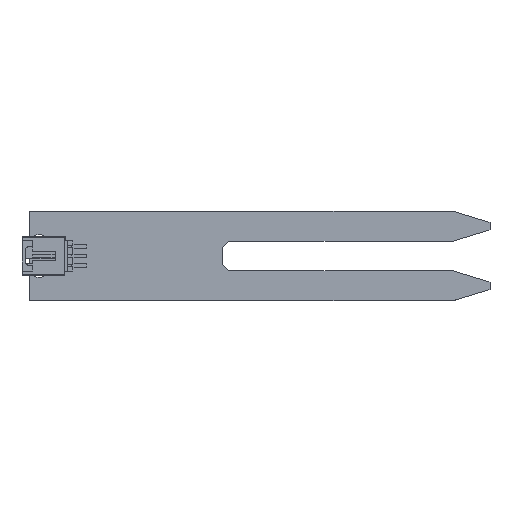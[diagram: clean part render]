
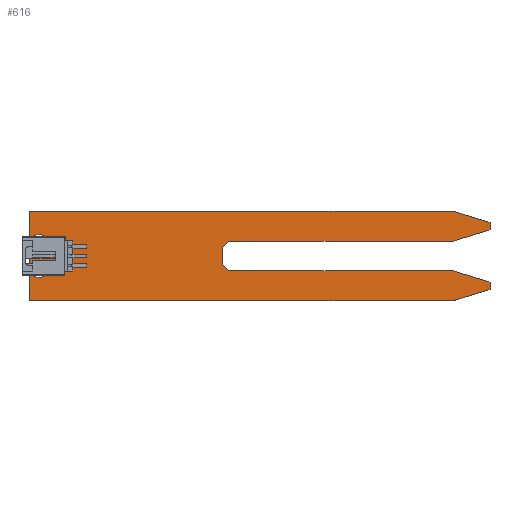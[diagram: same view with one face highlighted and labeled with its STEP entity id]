
A CAD part, top view. The second image highlights one B-rep face of the part: STEP entity #616.
In plain terms, the highlighted planar face has unit normal (0, 0, 1).
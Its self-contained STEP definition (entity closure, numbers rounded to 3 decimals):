
#95 = VERTEX_POINT('',#96);
#96 = CARTESIAN_POINT('',(0.,0.,0.));
#102 = EDGE_CURVE('',#95,#103,#105,.T.);
#103 = VERTEX_POINT('',#104);
#104 = CARTESIAN_POINT('',(0.,24.13,0.));
#105 = LINE('',#106,#107);
#106 = CARTESIAN_POINT('',(0.,0.,0.));
#107 = VECTOR('',#108,1.);
#108 = DIRECTION('',(0.,1.,0.));
#133 = EDGE_CURVE('',#103,#134,#136,.T.);
#134 = VERTEX_POINT('',#135);
#135 = CARTESIAN_POINT('',(113.5,24.13,0.));
#136 = LINE('',#137,#138);
#137 = CARTESIAN_POINT('',(0.,24.13,0.));
#138 = VECTOR('',#139,1.);
#139 = DIRECTION('',(1.,0.,0.));
#164 = EDGE_CURVE('',#134,#165,#167,.T.);
#165 = VERTEX_POINT('',#166);
#166 = CARTESIAN_POINT('',(123.66,21.082,0.));
#167 = LINE('',#168,#169);
#168 = CARTESIAN_POINT('',(113.5,24.13,0.));
#169 = VECTOR('',#170,1.);
#170 = DIRECTION('',(0.958,-0.287,0.));
#195 = EDGE_CURVE('',#165,#196,#198,.T.);
#196 = VERTEX_POINT('',#197);
#197 = CARTESIAN_POINT('',(123.66,19.05,0.));
#198 = LINE('',#199,#200);
#199 = CARTESIAN_POINT('',(123.66,21.082,0.));
#200 = VECTOR('',#201,1.);
#201 = DIRECTION('',(0.,-1.,0.));
#226 = EDGE_CURVE('',#196,#227,#229,.T.);
#227 = VERTEX_POINT('',#228);
#228 = CARTESIAN_POINT('',(113.5,16.002,0.));
#229 = LINE('',#230,#231);
#230 = CARTESIAN_POINT('',(123.66,19.05,0.));
#231 = VECTOR('',#232,1.);
#232 = DIRECTION('',(-0.958,-0.287,0.));
#257 = EDGE_CURVE('',#227,#258,#260,.T.);
#258 = VERTEX_POINT('',#259);
#259 = CARTESIAN_POINT('',(53.528,16.002,0.));
#260 = LINE('',#261,#262);
#261 = CARTESIAN_POINT('',(113.5,16.002,0.));
#262 = VECTOR('',#263,1.);
#263 = DIRECTION('',(-1.,0.,0.));
#288 = EDGE_CURVE('',#258,#289,#291,.T.);
#289 = VERTEX_POINT('',#290);
#290 = CARTESIAN_POINT('',(51.75,14.224,0.));
#291 = LINE('',#292,#293);
#292 = CARTESIAN_POINT('',(53.528,16.002,0.));
#293 = VECTOR('',#294,1.);
#294 = DIRECTION('',(-0.707,-0.707,0.));
#319 = EDGE_CURVE('',#289,#320,#322,.T.);
#320 = VERTEX_POINT('',#321);
#321 = CARTESIAN_POINT('',(51.75,9.906,0.));
#322 = LINE('',#323,#324);
#323 = CARTESIAN_POINT('',(51.75,14.224,0.));
#324 = VECTOR('',#325,1.);
#325 = DIRECTION('',(0.,-1.,0.));
#350 = EDGE_CURVE('',#320,#351,#353,.T.);
#351 = VERTEX_POINT('',#352);
#352 = CARTESIAN_POINT('',(53.528,8.128,0.));
#353 = LINE('',#354,#355);
#354 = CARTESIAN_POINT('',(51.75,9.906,0.));
#355 = VECTOR('',#356,1.);
#356 = DIRECTION('',(0.707,-0.707,0.));
#381 = EDGE_CURVE('',#351,#382,#384,.T.);
#382 = VERTEX_POINT('',#383);
#383 = CARTESIAN_POINT('',(113.5,8.128,0.));
#384 = LINE('',#385,#386);
#385 = CARTESIAN_POINT('',(53.528,8.128,0.));
#386 = VECTOR('',#387,1.);
#387 = DIRECTION('',(1.,0.,0.));
#412 = EDGE_CURVE('',#382,#413,#415,.T.);
#413 = VERTEX_POINT('',#414);
#414 = CARTESIAN_POINT('',(123.66,5.08,0.));
#415 = LINE('',#416,#417);
#416 = CARTESIAN_POINT('',(113.5,8.128,0.));
#417 = VECTOR('',#418,1.);
#418 = DIRECTION('',(0.958,-0.287,0.));
#443 = EDGE_CURVE('',#413,#444,#446,.T.);
#444 = VERTEX_POINT('',#445);
#445 = CARTESIAN_POINT('',(123.66,3.048,0.));
#446 = LINE('',#447,#448);
#447 = CARTESIAN_POINT('',(123.66,5.08,0.));
#448 = VECTOR('',#449,1.);
#449 = DIRECTION('',(0.,-1.,0.));
#474 = EDGE_CURVE('',#444,#475,#477,.T.);
#475 = VERTEX_POINT('',#476);
#476 = CARTESIAN_POINT('',(113.5,0.,0.));
#477 = LINE('',#478,#479);
#478 = CARTESIAN_POINT('',(123.66,3.048,0.));
#479 = VECTOR('',#480,1.);
#480 = DIRECTION('',(-0.958,-0.287,0.));
#505 = EDGE_CURVE('',#475,#95,#506,.T.);
#506 = LINE('',#507,#508);
#507 = CARTESIAN_POINT('',(113.5,0.,0.));
#508 = VECTOR('',#509,1.);
#509 = DIRECTION('',(-1.,0.,0.));
#529 = VERTEX_POINT('',#530);
#530 = CARTESIAN_POINT('',(4.547,16.002,0.));
#536 = EDGE_CURVE('',#529,#529,#537,.T.);
#537 = CIRCLE('',#538,1.905);
#538 = AXIS2_PLACEMENT_3D('',#539,#540,#541);
#539 = CARTESIAN_POINT('',(2.642,16.002,0.));
#540 = DIRECTION('',(0.,0.,1.));
#541 = DIRECTION('',(1.,0.,0.));
#562 = VERTEX_POINT('',#563);
#563 = CARTESIAN_POINT('',(4.547,8.128,0.));
#569 = EDGE_CURVE('',#562,#562,#570,.T.);
#570 = CIRCLE('',#571,1.905);
#571 = AXIS2_PLACEMENT_3D('',#572,#573,#574);
#572 = CARTESIAN_POINT('',(2.642,8.128,0.));
#573 = DIRECTION('',(0.,0.,1.));
#574 = DIRECTION('',(1.,0.,0.));
#616 = ADVANCED_FACE('',(#617,#633,#636),#639,.T.);
#617 = FACE_BOUND('',#618,.F.);
#618 = EDGE_LOOP('',(#619,#620,#621,#622,#623,#624,#625,#626,#627,#628,
    #629,#630,#631,#632));
#619 = ORIENTED_EDGE('',*,*,#102,.T.);
#620 = ORIENTED_EDGE('',*,*,#133,.T.);
#621 = ORIENTED_EDGE('',*,*,#164,.T.);
#622 = ORIENTED_EDGE('',*,*,#195,.T.);
#623 = ORIENTED_EDGE('',*,*,#226,.T.);
#624 = ORIENTED_EDGE('',*,*,#257,.T.);
#625 = ORIENTED_EDGE('',*,*,#288,.T.);
#626 = ORIENTED_EDGE('',*,*,#319,.T.);
#627 = ORIENTED_EDGE('',*,*,#350,.T.);
#628 = ORIENTED_EDGE('',*,*,#381,.T.);
#629 = ORIENTED_EDGE('',*,*,#412,.T.);
#630 = ORIENTED_EDGE('',*,*,#443,.T.);
#631 = ORIENTED_EDGE('',*,*,#474,.T.);
#632 = ORIENTED_EDGE('',*,*,#505,.T.);
#633 = FACE_BOUND('',#634,.T.);
#634 = EDGE_LOOP('',(#635));
#635 = ORIENTED_EDGE('',*,*,#536,.F.);
#636 = FACE_BOUND('',#637,.T.);
#637 = EDGE_LOOP('',(#638));
#638 = ORIENTED_EDGE('',*,*,#569,.F.);
#639 = PLANE('',#640);
#640 = AXIS2_PLACEMENT_3D('',#641,#642,#643);
#641 = CARTESIAN_POINT('',(0.,0.,0.));
#642 = DIRECTION('',(0.,0.,1.));
#643 = DIRECTION('',(1.,0.,0.));
